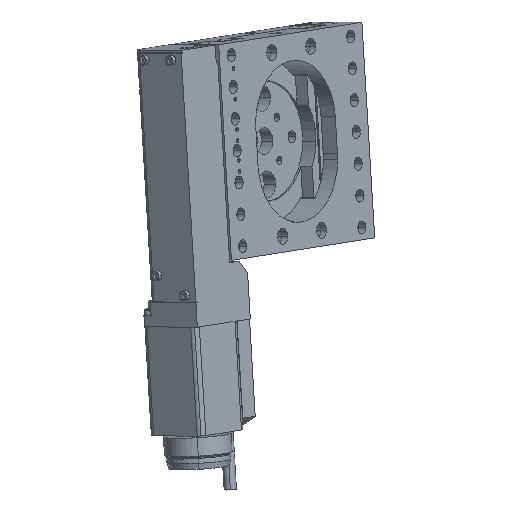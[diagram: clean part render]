
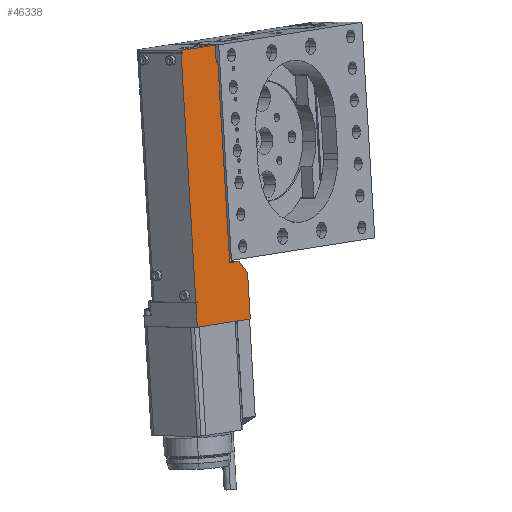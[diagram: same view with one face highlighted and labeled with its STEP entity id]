
A CAD part, front view. The second image highlights one B-rep face of the part: STEP entity #46338.
In plain terms, the highlighted planar face has unit normal (0.772, -0.635, -0.005).
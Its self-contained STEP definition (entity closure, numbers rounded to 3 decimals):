
#46333 = VERTEX_POINT ( 'NONE', #54578 ) ;
#46335 = EDGE_CURVE ( 'NONE', #46333, #51707, #54577, .T. ) ;
#46338 = ADVANCED_FACE ( 'NONE', ( #54573 ), #54572, .F. ) ;
#46339 = EDGE_LOOP ( 'NONE', ( #46340, #46432, #46434, #46435, #46436, #46344, #46347, #46350, #46353, #46356, #46389, #46391, #46394, #46397, #46474, #46489, #46469, #46473 ) ) ;
#46340 = ORIENTED_EDGE ( 'NONE', *, *, #46341, .F. ) ;
#46341 = EDGE_CURVE ( 'NONE', #46342, #46343, #54567, .T. ) ;
#46342 = VERTEX_POINT ( 'NONE', #54563 ) ;
#46343 = VERTEX_POINT ( 'NONE', #54562 ) ;
#46344 = ORIENTED_EDGE ( 'NONE', *, *, #46345, .F. ) ;
#46345 = EDGE_CURVE ( 'NONE', #46346, #46333, #54561, .T. ) ;
#46346 = VERTEX_POINT ( 'NONE', #54557 ) ;
#46347 = ORIENTED_EDGE ( 'NONE', *, *, #46348, .F. ) ;
#46348 = EDGE_CURVE ( 'NONE', #46349, #46346, #54620, .T. ) ;
#46349 = VERTEX_POINT ( 'NONE', #54616 ) ;
#46350 = ORIENTED_EDGE ( 'NONE', *, *, #46351, .F. ) ;
#46351 = EDGE_CURVE ( 'NONE', #46352, #46349, #54615, .T. ) ;
#46352 = VERTEX_POINT ( 'NONE', #54611 ) ;
#46353 = ORIENTED_EDGE ( 'NONE', *, *, #46354, .F. ) ;
#46354 = EDGE_CURVE ( 'NONE', #46355, #46352, #54610, .T. ) ;
#46355 = VERTEX_POINT ( 'NONE', #54606 ) ;
#46356 = ORIENTED_EDGE ( 'NONE', *, *, #46357, .T. ) ;
#46357 = EDGE_CURVE ( 'NONE', #46355, #46358, #54605, .T. ) ;
#46358 = VERTEX_POINT ( 'NONE', #54601 ) ;
#46359 = VERTEX_POINT ( 'NONE', #54600 ) ;
#46389 = ORIENTED_EDGE ( 'NONE', *, *, #46390, .F. ) ;
#46390 = EDGE_CURVE ( 'NONE', #46359, #46358, #54629, .T. ) ;
#46391 = ORIENTED_EDGE ( 'NONE', *, *, #46392, .F. ) ;
#46392 = EDGE_CURVE ( 'NONE', #46393, #46359, #54625, .T. ) ;
#46393 = VERTEX_POINT ( 'NONE', #54621 ) ;
#46394 = ORIENTED_EDGE ( 'NONE', *, *, #46395, .F. ) ;
#46395 = EDGE_CURVE ( 'NONE', #46396, #46393, #54688, .T. ) ;
#46396 = VERTEX_POINT ( 'NONE', #54684 ) ;
#46397 = ORIENTED_EDGE ( 'NONE', *, *, #46523, .F. ) ;
#46425 = EDGE_CURVE ( 'NONE', #46475, #46476, #54716, .T. ) ;
#46432 = ORIENTED_EDGE ( 'NONE', *, *, #46433, .F. ) ;
#46433 = EDGE_CURVE ( 'NONE', #53915, #46342, #54698, .T. ) ;
#46434 = ORIENTED_EDGE ( 'NONE', *, *, #53938, .F. ) ;
#46435 = ORIENTED_EDGE ( 'NONE', *, *, #51711, .F. ) ;
#46436 = ORIENTED_EDGE ( 'NONE', *, *, #46335, .F. ) ;
#46453 = EDGE_CURVE ( 'NONE', #46454, #46475, #54741, .T. ) ;
#46454 = VERTEX_POINT ( 'NONE', #54732 ) ;
#46466 = EDGE_CURVE ( 'NONE', #46343, #46487, #54776, .T. ) ;
#46469 = ORIENTED_EDGE ( 'NONE', *, *, #46470, .F. ) ;
#46470 = EDGE_CURVE ( 'NONE', #46487, #46454, #54771, .T. ) ;
#46473 = ORIENTED_EDGE ( 'NONE', *, *, #46466, .F. ) ;
#46474 = ORIENTED_EDGE ( 'NONE', *, *, #46425, .F. ) ;
#46475 = VERTEX_POINT ( 'NONE', #54762 ) ;
#46476 = VERTEX_POINT ( 'NONE', #54761 ) ;
#46487 = VERTEX_POINT ( 'NONE', #54795 ) ;
#46489 = ORIENTED_EDGE ( 'NONE', *, *, #46453, .F. ) ;
#46523 = EDGE_CURVE ( 'NONE', #46476, #46396, #54878, .T. ) ;
#50408 = VERTEX_POINT ( 'NONE', #112473 ) ;
#51707 = VERTEX_POINT ( 'NONE', #113504 ) ;
#51711 = EDGE_CURVE ( 'NONE', #51707, #50408, #113503, .T. ) ;
#53915 = VERTEX_POINT ( 'NONE', #115752 ) ;
#53938 = EDGE_CURVE ( 'NONE', #50408, #53915, #115739, .T. ) ;
#54557 = CARTESIAN_POINT ( 'NONE',  ( -16.252, 22.882, 136.161 ) ) ;
#54558 = DIRECTION ( 'NONE',  ( 0.059, 0.08, -0.995 ) ) ;
#54559 = VECTOR ( 'NONE', #54558, 1000. ) ;
#54560 = CARTESIAN_POINT ( 'NONE',  ( -16.252, 22.882, 136.161 ) ) ;
#54561 = LINE ( 'NONE', #54560, #54559 ) ;
#54562 = CARTESIAN_POINT ( 'NONE',  ( -3.121, 39.626, 43.818 ) ) ;
#54563 = CARTESIAN_POINT ( 'NONE',  ( -6.577, 35.384, 48.297 ) ) ;
#54564 = DIRECTION ( 'NONE',  ( 0.489, 0.6, -0.633 ) ) ;
#54565 = VECTOR ( 'NONE', #54564, 1000. ) ;
#54566 = CARTESIAN_POINT ( 'NONE',  ( -6.577, 35.384, 48.297 ) ) ;
#54567 = LINE ( 'NONE', #54566, #54565 ) ;
#54568 = DIRECTION ( 'NONE',  ( -0.635, -0.772, 0. ) ) ;
#54569 = DIRECTION ( 'NONE',  ( -0.772, 0.635, 0.005 ) ) ;
#54570 = CARTESIAN_POINT ( 'NONE',  ( -6.735, 35.257, 40.694 ) ) ;
#54571 = AXIS2_PLACEMENT_3D ( 'NONE', #54570, #54569, #54568 ) ;
#54572 = PLANE ( 'NONE',  #54571 ) ;
#54573 = FACE_OUTER_BOUND ( 'NONE', #46339, .T. ) ;
#54574 = DIRECTION ( 'NONE',  ( 0.632, 0.768, 0.099 ) ) ;
#54575 = VECTOR ( 'NONE', #54574, 1000. ) ;
#54576 = CARTESIAN_POINT ( 'NONE',  ( -15.839, 23.442, 129.196 ) ) ;
#54577 = LINE ( 'NONE', #54576, #54575 ) ;
#54578 = CARTESIAN_POINT ( 'NONE',  ( -15.839, 23.442, 129.196 ) ) ;
#54600 = CARTESIAN_POINT ( 'NONE',  ( -30.094, 6.076, 132.783 ) ) ;
#54601 = CARTESIAN_POINT ( 'NONE',  ( -29.462, 6.845, 132.882 ) ) ;
#54602 = DIRECTION ( 'NONE',  ( 0.059, 0.08, -0.995 ) ) ;
#54603 = VECTOR ( 'NONE', #54602, 1000. ) ;
#54604 = CARTESIAN_POINT ( 'NONE',  ( -29.473, 6.829, 133.081 ) ) ;
#54605 = LINE ( 'NONE', #54604, #54603 ) ;
#54606 = CARTESIAN_POINT ( 'NONE',  ( -29.473, 6.829, 133.081 ) ) ;
#54607 = DIRECTION ( 'NONE',  ( -0.632, -0.768, -0.099 ) ) ;
#54608 = VECTOR ( 'NONE', #54607, 1000. ) ;
#54609 = CARTESIAN_POINT ( 'NONE',  ( -29.473, 6.829, 133.081 ) ) ;
#54610 = LINE ( 'NONE', #54609, #54608 ) ;
#54611 = CARTESIAN_POINT ( 'NONE',  ( -30.106, 6.06, 132.982 ) ) ;
#54612 = DIRECTION ( 'NONE',  ( -0.059, -0.08, 0.995 ) ) ;
#54613 = VECTOR ( 'NONE', #54612, 1000. ) ;
#54614 = CARTESIAN_POINT ( 'NONE',  ( -30.106, 6.06, 132.982 ) ) ;
#54615 = LINE ( 'NONE', #54614, #54613 ) ;
#54616 = CARTESIAN_POINT ( 'NONE',  ( -30.165, 5.98, 133.977 ) ) ;
#54617 = DIRECTION ( 'NONE',  ( 0.632, 0.768, 0.099 ) ) ;
#54618 = VECTOR ( 'NONE', #54617, 1000. ) ;
#54619 = CARTESIAN_POINT ( 'NONE',  ( -30.165, 5.98, 133.977 ) ) ;
#54620 = LINE ( 'NONE', #54619, #54618 ) ;
#54621 = CARTESIAN_POINT ( 'NONE',  ( -24.104, 14.21, 31.686 ) ) ;
#54622 = DIRECTION ( 'NONE',  ( -0.059, -0.08, 0.995 ) ) ;
#54623 = VECTOR ( 'NONE', #54622, 1000. ) ;
#54624 = CARTESIAN_POINT ( 'NONE',  ( -24.104, 14.21, 31.686 ) ) ;
#54625 = LINE ( 'NONE', #54624, #54623 ) ;
#54626 = DIRECTION ( 'NONE',  ( 0.632, 0.768, 0.099 ) ) ;
#54627 = VECTOR ( 'NONE', #54626, 1000. ) ;
#54628 = CARTESIAN_POINT ( 'NONE',  ( -30.094, 6.076, 132.783 ) ) ;
#54629 = LINE ( 'NONE', #54628, #54627 ) ;
#54684 = CARTESIAN_POINT ( 'NONE',  ( -23.472, 14.978, 31.786 ) ) ;
#54685 = DIRECTION ( 'NONE',  ( -0.632, -0.768, -0.099 ) ) ;
#54686 = VECTOR ( 'NONE', #54685, 1000. ) ;
#54687 = CARTESIAN_POINT ( 'NONE',  ( -23.472, 14.978, 31.786 ) ) ;
#54688 = LINE ( 'NONE', #54687, #54686 ) ;
#54695 = DIRECTION ( 'NONE',  ( 0.632, 0.768, 0.099 ) ) ;
#54696 = VECTOR ( 'NONE', #54695, 1000. ) ;
#54697 = CARTESIAN_POINT ( 'NONE',  ( -10.372, 30.775, 47.701 ) ) ;
#54698 = LINE ( 'NONE', #54697, #54696 ) ;
#54710 = DIRECTION ( 'NONE',  ( 0.632, 0.768, 0.099 ) ) ;
#54711 = VECTOR ( 'NONE', #54710, 1000. ) ;
#54712 = CARTESIAN_POINT ( 'NONE',  ( -24.092, 14.226, 31.487 ) ) ;
#54716 = LINE ( 'NONE', #54712, #54711 ) ;
#54732 = CARTESIAN_POINT ( 'NONE',  ( -23.503, 15.027, 21.537 ) ) ;
#54733 = DIRECTION ( 'NONE',  ( -0.059, -0.08, 0.995 ) ) ;
#54734 = VECTOR ( 'NONE', #54733, 1000. ) ;
#54735 = CARTESIAN_POINT ( 'NONE',  ( -23.503, 15.027, 21.537 ) ) ;
#54741 = LINE ( 'NONE', #54735, #54734 ) ;
#54761 = CARTESIAN_POINT ( 'NONE',  ( -23.46, 14.994, 31.587 ) ) ;
#54762 = CARTESIAN_POINT ( 'NONE',  ( -24.092, 14.226, 31.487 ) ) ;
#54763 = DIRECTION ( 'NONE',  ( -0.632, -0.768, -0.099 ) ) ;
#54764 = VECTOR ( 'NONE', #54763, 1000. ) ;
#54765 = CARTESIAN_POINT ( 'NONE',  ( -2., 41.147, 24.912 ) ) ;
#54771 = LINE ( 'NONE', #54765, #54764 ) ;
#54773 = DIRECTION ( 'NONE',  ( 0.059, 0.08, -0.995 ) ) ;
#54774 = VECTOR ( 'NONE', #54773, 1000. ) ;
#54775 = CARTESIAN_POINT ( 'NONE',  ( -3.121, 39.626, 43.818 ) ) ;
#54776 = LINE ( 'NONE', #54775, #54774 ) ;
#54795 = CARTESIAN_POINT ( 'NONE',  ( -2., 41.147, 24.912 ) ) ;
#54875 = DIRECTION ( 'NONE',  ( -0.059, -0.08, 0.995 ) ) ;
#54876 = VECTOR ( 'NONE', #54875, 1000. ) ;
#54877 = CARTESIAN_POINT ( 'NONE',  ( -23.46, 14.994, 31.587 ) ) ;
#54878 = LINE ( 'NONE', #54877, #54876 ) ;
#112473 = CARTESIAN_POINT ( 'NONE',  ( -10.431, 30.695, 48.696 ) ) ;
#113500 = DIRECTION ( 'NONE',  ( 0.059, 0.08, -0.995 ) ) ;
#113501 = VECTOR ( 'NONE', #113500, 1000. ) ;
#113502 = CARTESIAN_POINT ( 'NONE',  ( -15.206, 24.21, 129.295 ) ) ;
#113503 = LINE ( 'NONE', #113502, #113501 ) ;
#113504 = CARTESIAN_POINT ( 'NONE',  ( -15.206, 24.21, 129.295 ) ) ;
#115736 = DIRECTION ( 'NONE',  ( 0.059, 0.08, -0.995 ) ) ;
#115737 = VECTOR ( 'NONE', #115736, 1000. ) ;
#115738 = CARTESIAN_POINT ( 'NONE',  ( -10.431, 30.695, 48.696 ) ) ;
#115739 = LINE ( 'NONE', #115738, #115737 ) ;
#115752 = CARTESIAN_POINT ( 'NONE',  ( -10.372, 30.775, 47.701 ) ) ;
